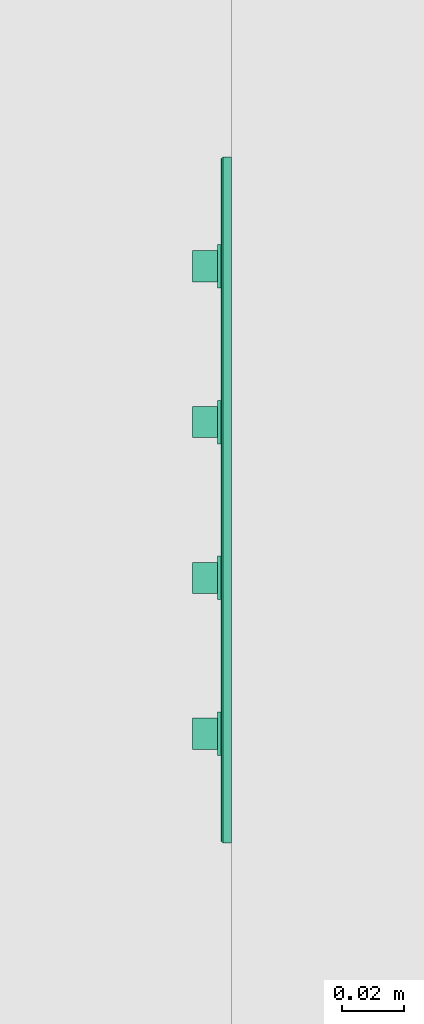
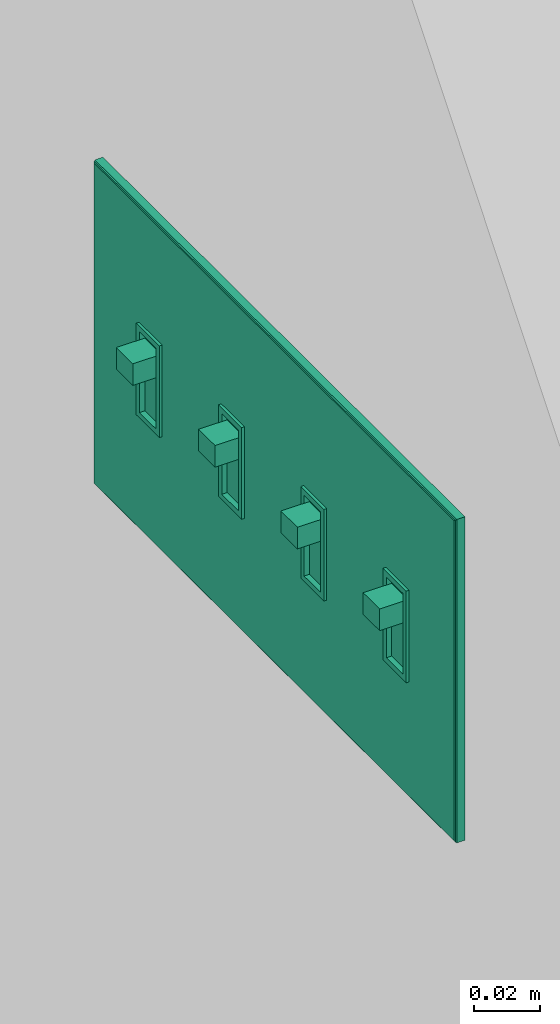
# One storey, part 7 of 48: 1 flow controller.
"""IFC2X3 building model written with IfcOpenShell, lengths in inches."""

from ifc_helpers import new_model, entity, si_unit, converted_unit, derived_unit, money_unit, direction, frame, origin_with_axes, place, context, subcontext, project, spatial, faceted_brep, source, transform, mapped, type_object, element, save


model = new_model("IFC2X3")

# Units and contexts
model_context = context("Model", 3, precision=0.00039370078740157, world=origin_with_axes(), true_north=direction((0.0, 1.0)))
plan_context = context("Plan", 3, precision=0.00039370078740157, world=origin_with_axes(), true_north=direction((0.0, 1.0)))
body_context = subcontext(model_context, "Body", "Model", "MODEL_VIEW")
ifc_project = project(units=[converted_unit("LENGTHUNIT", "INCH", entity("IfcPositiveLengthMeasure", 0.0254), si_unit("LENGTHUNIT", "METRE"), dimensions=[1, 0, 0, 0, 0, 0, 0]), converted_unit("AREAUNIT", "SQUARE_FOOT", entity("IfcPositiveLengthMeasure", 0.09290304), si_unit("AREAUNIT", "SQUARE_METRE"), dimensions=[2, 0, 0, 0, 0, 0, 0]), si_unit("PLANEANGLEUNIT", "RADIAN"), si_unit("SOLIDANGLEUNIT", "STERADIAN"), money_unit("USD"), converted_unit("TIMEUNIT", "Year", entity("IfcTimeMeasure", 31557600.0), si_unit("TIMEUNIT", "SECOND"), dimensions=[0, 0, 1, 0, 0, 0, 0]), si_unit("MASSUNIT", "GRAM", prefix="KILO"), si_unit("THERMODYNAMICTEMPERATUREUNIT", "DEGREE_CELSIUS"), si_unit("LUMINOUSINTENSITYUNIT", "LUMEN"), si_unit("ENERGYUNIT", "JOULE", prefix="MEGA"), derived_unit("SPECIFICHEATCAPACITYUNIT", [(si_unit("ENERGYUNIT", "JOULE"), 1), (si_unit("MASSUNIT", "GRAM", prefix="KILO"), -1), (si_unit("THERMODYNAMICTEMPERATUREUNIT", "KELVIN"), -1)])], contexts=[model_context, plan_context])

# Site, building, storey
site_placement = place(None, origin_with_axes())
site = spatial("IfcSite", under=ifc_project, at=site_placement, Name="Site", CompositionType="ELEMENT")
building_placement = place(site_placement, origin_with_axes())
building = spatial("IfcBuilding", under=site, at=building_placement, Name="Building", CompositionType="ELEMENT")
storey_placement = place(building_placement, origin_with_axes())
storey = spatial("IfcBuildingStorey", under=building, at=storey_placement, Name="First Floor", CompositionType="ELEMENT", Elevation=0.0)

# Flow controller
switching_device_type = type_object("IfcSwitchingDeviceType", Name="Switch US", PredefinedType="NOTDEFINED")
shared_shape = source(origin_with_axes(), body_context, "Body", "Brep", [
    faceted_brep([(3.14960629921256, 0.0, -0.5905511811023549), (2.755905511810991, 0.0, -0.5905511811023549), (2.755905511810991, 0.0, 0.5905511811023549), (3.14960629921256, 0.0, 0.5905511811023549), (3.14960629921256, -0.1033464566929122, -0.5905511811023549), (2.755905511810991, -0.1033464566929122, -0.5905511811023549), (2.755905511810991, -0.1033464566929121, 0.157480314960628), (2.755905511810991, -0.4970472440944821, 0.1574803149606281), (2.755905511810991, -0.4970472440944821, 0.472440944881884), (2.755905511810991, -0.1033464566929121, 0.472440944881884), (2.755905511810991, -0.1033464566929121, 0.5905511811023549), (3.14960629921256, -0.103346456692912, 0.5905511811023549), (3.14960629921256, -0.1033464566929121, 0.472440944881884), (3.14960629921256, -0.4970472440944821, 0.472440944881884), (3.14960629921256, -0.4970472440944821, 0.1574803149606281), (3.14960629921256, -0.1033464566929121, 0.157480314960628)], [[[0, 1, 2, 3]], [[4, 5, 1, 0]], [[1, 5, 6, 7, 8, 9, 10, 2]], [[3, 2, 10, 11]], [[0, 3, 11, 12, 13, 14, 15, 4]], [[15, 6, 5, 4]], [[14, 7, 6, 15]], [[13, 8, 7, 14]], [[12, 9, 8, 13]], [[11, 10, 9, 12]]]),
    faceted_brep([(3.228346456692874, 0.0, -0.669291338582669), (3.228346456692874, -0.1771653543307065, -0.669291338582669), (2.677165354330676, -0.1771653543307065, -0.669291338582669), (2.677165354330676, 0.0, -0.669291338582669), (3.228346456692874, 0.0, 0.669291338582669), (3.228346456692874, -0.1771653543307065, 0.669291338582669), (2.677165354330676, -0.1771653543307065, 0.669291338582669), (3.14960629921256, -0.1771653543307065, -0.5905511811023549), (2.75590551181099, -0.1771653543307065, -0.5905511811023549), (2.75590551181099, -0.1771653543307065, 0.5905511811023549), (3.14960629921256, -0.1771653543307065, 0.5905511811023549), (2.677165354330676, 0.0, 0.669291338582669), (3.14960629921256, 0.0, -0.5905511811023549), (3.14960629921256, 0.0, 0.5905511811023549), (2.75590551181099, 0.0, 0.5905511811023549), (2.75590551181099, 0.0, -0.5905511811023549)], [[[0, 1, 2, 3]], [[4, 5, 1, 0]], [[1, 5, 6, 2], [7, 8, 9, 10]], [[3, 2, 6, 11]], [[0, 3, 11, 4], [12, 13, 14, 15]], [[11, 6, 5, 4]], [[15, 8, 7, 12]], [[14, 9, 8, 15]], [[13, 10, 9, 14]], [[12, 7, 10, 13]]]),
    faceted_brep([(1.968503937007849, -0.103346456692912, 2.362204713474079), (4.330708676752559, -0.103346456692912, 2.362204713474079), (4.330708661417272, 0.0, 2.36220472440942), (1.968503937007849, 0.0, 2.36220472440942), (1.968503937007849, -0.1122624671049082, 2.361030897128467), (4.329534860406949, -0.1122624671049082, 2.361030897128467), (4.330708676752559, -0.1033464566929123, -2.36220473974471), (4.330708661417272, 0.0, -2.36220472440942), (1.968503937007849, 0.0, -2.36220472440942), (2.677165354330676, 0.0, -0.669291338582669), (3.228346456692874, 0.0, -0.669291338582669), (3.228346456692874, 0.0, 0.669291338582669), (2.677165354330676, 0.0, 0.669291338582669), (1.968503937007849, -0.1033464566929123, -2.36220473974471), (1.968503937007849, -0.1122624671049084, -2.361030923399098), (1.968503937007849, -0.1277054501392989, -2.352114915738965), (1.968503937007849, -0.1366214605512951, -2.336671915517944), (1.968503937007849, -0.1377952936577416, -2.327755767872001), (1.968503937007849, -0.1377952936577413, 2.32775574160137), (1.968503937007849, -0.1366214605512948, 2.336671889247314), (1.968503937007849, -0.1277054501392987, 2.352114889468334), (4.320618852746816, -0.1277054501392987, 2.352114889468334), (4.329534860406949, -0.1122624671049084, -2.361030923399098), (2.677165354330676, -0.1377952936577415, -0.669291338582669), (3.228346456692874, -0.1377952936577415, -0.669291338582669), (3.228346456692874, -0.1377952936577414, 0.669291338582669), (2.677165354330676, -0.1377952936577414, 0.669291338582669), (4.320618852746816, -0.1277054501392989, -2.352114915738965), (4.305175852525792, -0.1366214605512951, -2.336671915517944), (4.296259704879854, -0.1377952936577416, -2.327755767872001), (4.296259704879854, -0.1377952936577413, 2.32775574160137), (4.305175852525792, -0.1366214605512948, 2.336671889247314)], [[[0, 1, 2, 3]], [[4, 5, 1, 0]], [[6, 7, 2, 1]], [[3, 2, 7, 8], [9, 10, 11, 12]], [[8, 13, 14, 15, 16, 17, 18, 19, 20, 4, 0, 3]], [[20, 21, 5, 4]], [[22, 6, 1, 5]], [[8, 7, 6, 13]], [[10, 9, 23, 24]], [[11, 10, 24, 25]], [[12, 11, 25, 26]], [[9, 12, 26, 23]], [[13, 6, 22, 14]], [[14, 22, 27, 15]], [[15, 27, 28, 16]], [[16, 28, 29, 17]], [[17, 29, 30, 18], [25, 24, 23, 26]], [[18, 30, 31, 19]], [[19, 31, 21, 20]], [[27, 22, 5, 21]], [[28, 27, 21, 31]], [[29, 28, 31, 30]]]),
    faceted_brep([(1.18110236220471, 0.0, -0.5905511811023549), (0.7874015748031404, 0.0, -0.5905511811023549), (0.7874015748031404, 0.0, 0.5905511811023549), (1.18110236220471, 0.0, 0.5905511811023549), (1.18110236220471, -0.1033464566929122, -0.5905511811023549), (0.7874015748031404, -0.1033464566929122, -0.5905511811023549), (0.7874015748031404, -0.1033464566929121, 0.157480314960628), (0.7874015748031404, -0.4970472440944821, 0.1574803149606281), (0.7874015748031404, -0.4970472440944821, 0.472440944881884), (0.7874015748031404, -0.1033464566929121, 0.472440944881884), (0.7874015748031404, -0.1033464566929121, 0.5905511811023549), (1.18110236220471, -0.103346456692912, 0.5905511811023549), (1.18110236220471, -0.1033464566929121, 0.472440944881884), (1.18110236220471, -0.4970472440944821, 0.472440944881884), (1.18110236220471, -0.4970472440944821, 0.1574803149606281), (1.18110236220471, -0.1033464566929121, 0.157480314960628)], [[[0, 1, 2, 3]], [[4, 5, 1, 0]], [[1, 5, 6, 7, 8, 9, 10, 2]], [[3, 2, 10, 11]], [[0, 3, 11, 12, 13, 14, 15, 4]], [[15, 6, 5, 4]], [[14, 7, 6, 15]], [[13, 8, 7, 14]], [[12, 9, 8, 13]], [[11, 10, 9, 12]]]),
    faceted_brep([(1.259842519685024, 0.0, -0.669291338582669), (1.259842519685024, -0.1771653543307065, -0.669291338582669), (0.7086614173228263, -0.1771653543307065, -0.669291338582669), (0.7086614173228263, 0.0, -0.669291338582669), (1.259842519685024, 0.0, 0.669291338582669), (1.259842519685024, -0.1771653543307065, 0.669291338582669), (0.7086614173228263, -0.1771653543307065, 0.669291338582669), (1.18110236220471, -0.1771653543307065, -0.5905511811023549), (0.7874015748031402, -0.1771653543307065, -0.5905511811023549), (0.7874015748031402, -0.1771653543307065, 0.5905511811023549), (1.18110236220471, -0.1771653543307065, 0.5905511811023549), (0.7086614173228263, 0.0, 0.669291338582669), (1.18110236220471, 0.0, -0.5905511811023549), (1.18110236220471, 0.0, 0.5905511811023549), (0.7874015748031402, 0.0, 0.5905511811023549), (0.7874015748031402, 0.0, -0.5905511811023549)], [[[0, 1, 2, 3]], [[4, 5, 1, 0]], [[1, 5, 6, 2], [7, 8, 9, 10]], [[3, 2, 6, 11]], [[0, 3, 11, 4], [12, 13, 14, 15]], [[11, 6, 5, 4]], [[15, 8, 7, 12]], [[14, 9, 8, 15]], [[13, 10, 9, 14]], [[12, 7, 10, 13]]]),
    faceted_brep([(1.968503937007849, 0.0, -2.36220472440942), (0.0, 0.0, -2.36220472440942), (0.0, 0.0, 2.36220472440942), (1.968503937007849, 0.0, 2.36220472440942), (0.7086614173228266, 0.0, 0.669291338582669), (0.7086614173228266, 0.0, -0.669291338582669), (1.259842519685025, 0.0, -0.669291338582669), (1.259842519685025, 0.0, 0.669291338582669), (1.968503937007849, -0.1033464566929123, -2.36220473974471), (0.0, -0.1033464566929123, -2.36220473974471), (0.0, -0.1277054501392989, -2.352114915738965), (0.0, -0.1366214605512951, -2.336671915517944), (0.0, -0.1377952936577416, -2.327755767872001), (0.0, -0.1377952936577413, 2.32775574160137), (0.0, -0.1366214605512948, 2.336671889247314), (0.0, -0.1277054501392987, 2.352114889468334), (0.0, -0.1122624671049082, 2.361030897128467), (0.0, -0.103346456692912, 2.362204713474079), (0.0, -0.1122624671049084, -2.361030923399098), (1.968503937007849, -0.103346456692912, 2.362204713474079), (1.968503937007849, -0.1122624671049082, 2.361030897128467), (1.968503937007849, -0.1277054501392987, 2.352114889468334), (1.968503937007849, -0.1366214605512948, 2.336671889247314), (1.968503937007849, -0.1377952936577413, 2.32775574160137), (1.968503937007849, -0.1377952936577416, -2.327755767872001), (1.968503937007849, -0.1366214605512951, -2.336671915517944), (1.968503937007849, -0.1277054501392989, -2.352114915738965), (1.968503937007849, -0.1122624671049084, -2.361030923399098), (0.7086614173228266, -0.1377952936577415, -0.669291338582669), (0.7086614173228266, -0.1377952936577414, 0.669291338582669), (1.259842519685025, -0.1377952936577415, -0.669291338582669), (1.259842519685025, -0.1377952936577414, 0.669291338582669)], [[[0, 1, 2, 3], [4, 5, 6, 7]], [[8, 9, 1, 0]], [[10, 11, 12, 13, 14, 15, 16, 17, 2, 1, 9, 18]], [[3, 2, 17, 19]], [[19, 20, 21, 22, 23, 24, 25, 26, 27, 8, 0, 3]], [[28, 5, 4, 29]], [[30, 6, 5, 28]], [[31, 7, 6, 30]], [[29, 4, 7, 31]], [[27, 18, 9, 8]], [[25, 11, 10, 26]], [[24, 12, 11, 25]], [[23, 13, 12, 24], [29, 31, 30, 28]], [[22, 14, 13, 23]], [[21, 15, 14, 22]], [[20, 16, 15, 21]], [[19, 17, 16, 20]], [[26, 10, 18, 27]]]),
    faceted_brep([(-0.7874015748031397, 0.0, -0.5905511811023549), (-1.18110236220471, 0.0, -0.5905511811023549), (-1.18110236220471, 0.0, 0.5905511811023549), (-0.7874015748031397, 0.0, 0.5905511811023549), (-0.7874015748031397, -0.1033464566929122, -0.5905511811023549), (-1.18110236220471, -0.1033464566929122, -0.5905511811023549), (-1.18110236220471, -0.1033464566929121, 0.157480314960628), (-1.18110236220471, -0.4970472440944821, 0.1574803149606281), (-1.18110236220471, -0.4970472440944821, 0.472440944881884), (-1.18110236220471, -0.1033464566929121, 0.472440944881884), (-1.18110236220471, -0.1033464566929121, 0.5905511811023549), (-0.7874015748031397, -0.103346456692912, 0.5905511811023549), (-0.7874015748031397, -0.1033464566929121, 0.472440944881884), (-0.7874015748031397, -0.4970472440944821, 0.472440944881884), (-0.7874015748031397, -0.4970472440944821, 0.1574803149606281), (-0.7874015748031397, -0.1033464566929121, 0.157480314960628)], [[[0, 1, 2, 3]], [[4, 5, 1, 0]], [[1, 5, 6, 7, 8, 9, 10, 2]], [[3, 2, 10, 11]], [[0, 3, 11, 12, 13, 14, 15, 4]], [[15, 6, 5, 4]], [[14, 7, 6, 15]], [[13, 8, 7, 14]], [[12, 9, 8, 13]], [[11, 10, 9, 12]]]),
    faceted_brep([(-0.7086614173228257, 0.0, -0.669291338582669), (-0.7086614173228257, -0.1771653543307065, -0.669291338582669), (-1.259842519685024, -0.1771653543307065, -0.669291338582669), (-1.259842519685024, 0.0, -0.669291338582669), (-0.7086614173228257, 0.0, 0.669291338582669), (-0.7086614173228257, -0.1771653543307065, 0.669291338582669), (-1.259842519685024, -0.1771653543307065, 0.669291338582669), (-0.7874015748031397, -0.1771653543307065, -0.5905511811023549), (-1.18110236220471, -0.1771653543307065, -0.5905511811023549), (-1.18110236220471, -0.1771653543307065, 0.5905511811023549), (-0.7874015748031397, -0.1771653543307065, 0.5905511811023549), (-1.259842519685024, 0.0, 0.669291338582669), (-0.7874015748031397, 0.0, -0.5905511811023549), (-0.7874015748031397, 0.0, 0.5905511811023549), (-1.18110236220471, 0.0, 0.5905511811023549), (-1.18110236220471, 0.0, -0.5905511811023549)], [[[0, 1, 2, 3]], [[4, 5, 1, 0]], [[1, 5, 6, 2], [7, 8, 9, 10]], [[3, 2, 6, 11]], [[0, 3, 11, 4], [12, 13, 14, 15]], [[11, 6, 5, 4]], [[15, 8, 7, 12]], [[14, 9, 8, 15]], [[13, 10, 9, 14]], [[12, 7, 10, 13]]]),
    faceted_brep([(0.0, 0.0, -2.36220472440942), (-1.968503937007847, 0.0, -2.36220472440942), (-1.968503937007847, 0.0, 2.36220472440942), (0.0, 0.0, 2.36220472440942), (-1.259842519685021, 0.0, 0.669291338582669), (-1.259842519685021, 0.0, -0.669291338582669), (-0.7086614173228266, 0.0, -0.669291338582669), (-0.7086614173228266, 0.0, 0.669291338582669), (0.0, -0.1033464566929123, -2.36220473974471), (-1.968503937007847, -0.1033464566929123, -2.36220473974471), (-1.968503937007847, -0.1277054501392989, -2.352114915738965), (-1.968503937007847, -0.1366214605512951, -2.336671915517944), (-1.968503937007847, -0.1377952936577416, -2.327755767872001), (-1.968503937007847, -0.1377952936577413, 2.32775574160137), (-1.968503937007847, -0.1366214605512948, 2.336671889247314), (-1.968503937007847, -0.1277054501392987, 2.352114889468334), (-1.968503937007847, -0.1122624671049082, 2.361030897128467), (-1.968503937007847, -0.103346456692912, 2.362204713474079), (-1.968503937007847, -0.1122624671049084, -2.361030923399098), (0.0, -0.103346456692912, 2.362204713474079), (0.0, -0.1122624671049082, 2.361030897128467), (0.0, -0.1277054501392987, 2.352114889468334), (0.0, -0.1366214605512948, 2.336671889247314), (0.0, -0.1377952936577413, 2.32775574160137), (0.0, -0.1377952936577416, -2.327755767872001), (0.0, -0.1366214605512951, -2.336671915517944), (0.0, -0.1277054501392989, -2.352114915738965), (0.0, -0.1122624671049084, -2.361030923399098), (-1.259842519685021, -0.1377952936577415, -0.669291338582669), (-1.259842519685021, -0.1377952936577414, 0.669291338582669), (-0.7086614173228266, -0.1377952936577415, -0.669291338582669), (-0.7086614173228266, -0.1377952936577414, 0.669291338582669)], [[[0, 1, 2, 3], [4, 5, 6, 7]], [[8, 9, 1, 0]], [[10, 11, 12, 13, 14, 15, 16, 17, 2, 1, 9, 18]], [[3, 2, 17, 19]], [[19, 20, 21, 22, 23, 24, 25, 26, 27, 8, 0, 3]], [[28, 5, 4, 29]], [[30, 6, 5, 28]], [[31, 7, 6, 30]], [[29, 4, 7, 31]], [[27, 18, 9, 8]], [[25, 11, 10, 26]], [[24, 12, 11, 25]], [[23, 13, 12, 24], [29, 31, 30, 28]], [[22, 14, 13, 23]], [[21, 15, 14, 22]], [[20, 16, 15, 21]], [[19, 17, 16, 20]], [[26, 10, 18, 27]]]),
    faceted_brep([(-2.755905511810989, 0.0, -0.5905511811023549), (-3.14960629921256, 0.0, -0.5905511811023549), (-3.14960629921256, 0.0, 0.5905511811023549), (-2.755905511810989, 0.0, 0.5905511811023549), (-2.755905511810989, -0.1033464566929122, -0.5905511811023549), (-3.14960629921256, -0.1033464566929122, -0.5905511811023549), (-3.14960629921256, -0.1033464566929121, 0.157480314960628), (-3.14960629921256, -0.4970472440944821, 0.1574803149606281), (-3.14960629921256, -0.4970472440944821, 0.472440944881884), (-3.14960629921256, -0.1033464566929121, 0.472440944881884), (-3.14960629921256, -0.1033464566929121, 0.5905511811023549), (-2.755905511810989, -0.103346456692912, 0.5905511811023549), (-2.755905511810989, -0.1033464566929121, 0.472440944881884), (-2.755905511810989, -0.4970472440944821, 0.472440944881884), (-2.755905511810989, -0.4970472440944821, 0.1574803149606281), (-2.755905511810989, -0.1033464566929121, 0.157480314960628)], [[[0, 1, 2, 3]], [[4, 5, 1, 0]], [[1, 5, 6, 7, 8, 9, 10, 2]], [[3, 2, 10, 11]], [[0, 3, 11, 12, 13, 14, 15, 4]], [[15, 6, 5, 4]], [[14, 7, 6, 15]], [[13, 8, 7, 14]], [[12, 9, 8, 13]], [[11, 10, 9, 12]]]),
    faceted_brep([(-2.677165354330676, 0.0, -0.669291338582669), (-2.677165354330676, -0.1771653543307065, -0.669291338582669), (-3.228346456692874, -0.1771653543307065, -0.669291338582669), (-3.228346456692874, 0.0, -0.669291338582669), (-2.677165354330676, 0.0, 0.669291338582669), (-2.677165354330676, -0.1771653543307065, 0.669291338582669), (-3.228346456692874, -0.1771653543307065, 0.669291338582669), (-2.75590551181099, -0.1771653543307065, -0.5905511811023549), (-3.14960629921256, -0.1771653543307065, -0.5905511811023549), (-3.14960629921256, -0.1771653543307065, 0.5905511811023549), (-2.75590551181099, -0.1771653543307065, 0.5905511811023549), (-3.228346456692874, 0.0, 0.669291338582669), (-2.75590551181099, 0.0, -0.5905511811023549), (-2.75590551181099, 0.0, 0.5905511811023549), (-3.14960629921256, 0.0, 0.5905511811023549), (-3.14960629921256, 0.0, -0.5905511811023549)], [[[0, 1, 2, 3]], [[4, 5, 1, 0]], [[1, 5, 6, 2], [7, 8, 9, 10]], [[3, 2, 6, 11]], [[0, 3, 11, 4], [12, 13, 14, 15]], [[11, 6, 5, 4]], [[15, 8, 7, 12]], [[14, 9, 8, 15]], [[13, 10, 9, 14]], [[12, 7, 10, 13]]]),
    faceted_brep([(-1.968503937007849, 0.0, -2.36220472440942), (-4.330708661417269, 0.0, -2.36220472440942), (-4.330708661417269, 0.0, 2.36220472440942), (-1.968503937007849, 0.0, 2.36220472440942), (-3.228346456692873, 0.0, -0.669291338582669), (-2.677165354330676, 0.0, -0.669291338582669), (-2.677165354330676, 0.0, 0.669291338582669), (-3.228346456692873, 0.0, 0.669291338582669), (-1.968503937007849, -0.1033464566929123, -2.36220473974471), (-4.330708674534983, -0.1033464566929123, -2.36220473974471), (-4.330708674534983, -0.103346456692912, 2.362204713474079), (-1.968503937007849, -0.103346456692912, 2.362204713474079), (-1.968503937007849, -0.1122624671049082, 2.361030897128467), (-1.968503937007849, -0.1277054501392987, 2.352114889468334), (-1.968503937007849, -0.1366214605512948, 2.336671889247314), (-1.968503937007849, -0.1377952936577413, 2.32775574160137), (-1.968503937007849, -0.1377952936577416, -2.327755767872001), (-1.968503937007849, -0.1366214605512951, -2.336671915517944), (-1.968503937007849, -0.1277054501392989, -2.352114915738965), (-1.968503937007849, -0.1122624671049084, -2.361030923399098), (-3.228346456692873, -0.1377952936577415, -0.669291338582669), (-2.677165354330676, -0.1377952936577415, -0.669291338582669), (-2.677165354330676, -0.1377952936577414, 0.669291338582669), (-3.228346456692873, -0.1377952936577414, 0.669291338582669), (-4.329534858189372, -0.1122624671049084, -2.361030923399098), (-4.329534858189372, -0.1122624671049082, 2.361030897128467), (-4.32061885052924, -0.1277054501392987, 2.352114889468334), (-4.30517585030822, -0.1366214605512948, 2.336671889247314), (-4.296259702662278, -0.1377952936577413, 2.32775574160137), (-4.296259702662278, -0.1377952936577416, -2.327755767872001), (-4.30517585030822, -0.1366214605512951, -2.336671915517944), (-4.32061885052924, -0.1277054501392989, -2.352114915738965)], [[[0, 1, 2, 3], [4, 5, 6, 7]], [[8, 9, 1, 0]], [[10, 2, 1, 9]], [[3, 2, 10, 11]], [[11, 12, 13, 14, 15, 16, 17, 18, 19, 8, 0, 3]], [[5, 4, 20, 21]], [[6, 5, 21, 22]], [[7, 6, 22, 23]], [[4, 7, 23, 20]], [[19, 24, 9, 8]], [[25, 10, 9, 24]], [[11, 10, 25, 12]], [[12, 25, 26, 13]], [[13, 26, 27, 14]], [[14, 27, 28, 15]], [[15, 28, 29, 16], [22, 21, 20, 23]], [[16, 29, 30, 17]], [[17, 30, 31, 18]], [[18, 31, 24, 19]], [[26, 25, 24, 31]], [[27, 26, 31, 30]], [[28, 27, 30, 29]]]),
])
flow_controller_placement = place(storey_placement, frame((214.4999999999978, 201.0000000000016, 43.99999999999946), z_axis=(0.0, 0.0, 1.0), x_axis=(0.0, -1.0, 0.0)))
element("IfcFlowController", 1, at=flow_controller_placement, inside=storey, type_object=switching_device_type, Name="OBJ-09", context=body_context, shape_type="MappedRepresentation", body=[
    mapped(shared_shape, transform((0.0, 0.0, 0.0))),
])

save(model, "model.ifc")
